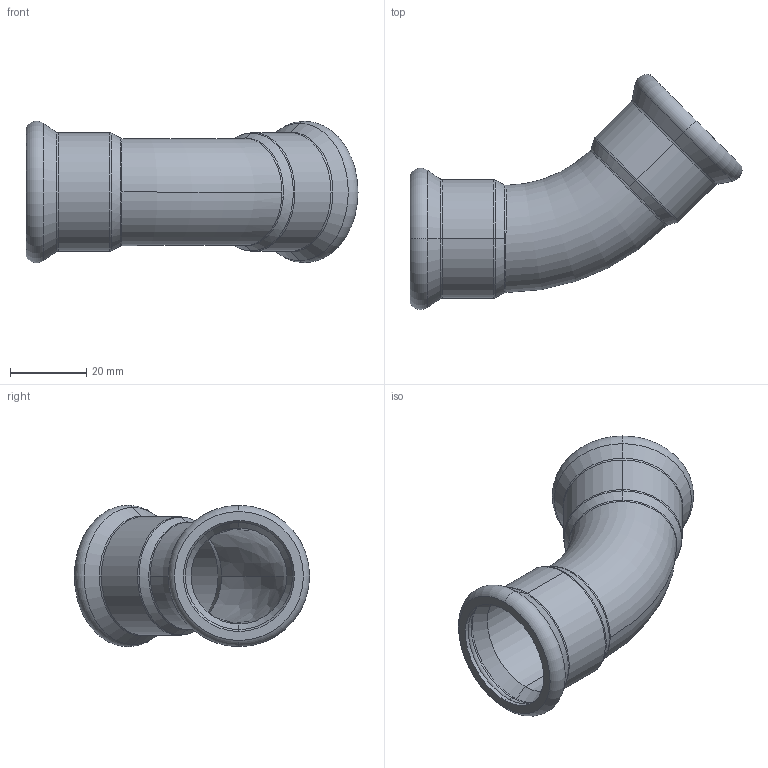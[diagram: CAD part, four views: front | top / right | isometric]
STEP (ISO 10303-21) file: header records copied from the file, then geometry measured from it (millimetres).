
FILE_DESCRIPTION (( 'STEP AP214' ), '1' );
FILE_NAME ('E280045.STEP', '2025-08-17T07:09:33', ( '' ), ( '' ), 'SwSTEP 2.0', 'SolidWorks 2020', '' );
FILE_SCHEMA (( 'AUTOMOTIVE_DESIGN' ));
Length unit declared in the file: millimetre
Products named in the file (1): E280045
Bounding box: 87.32 x 61.86 x 37.18 mm (x, y, z)
Volume: 13105.6 mm3; surface area: 18416.6 mm2
Topology: 3 solids, 3 shells, 64 faces, 148 edges, 88 vertices
Faces by surface type: torus 26, cone 16, cylinder 12, bspline 6, plane 4
Entity records: 3830 total; most frequent: CARTESIAN_POINT 1619, DIRECTION 342, ORIENTED_EDGE 296, AXIS2_PLACEMENT_3D 157, EDGE_CURVE 148, CIRCLE 98, VERTEX_POINT 88, EDGE_LOOP 68
